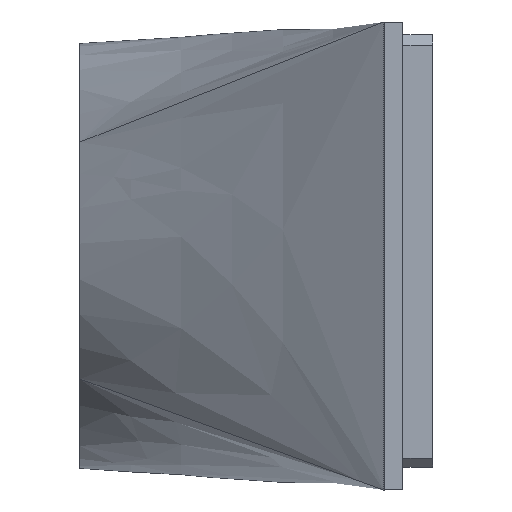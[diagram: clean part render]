
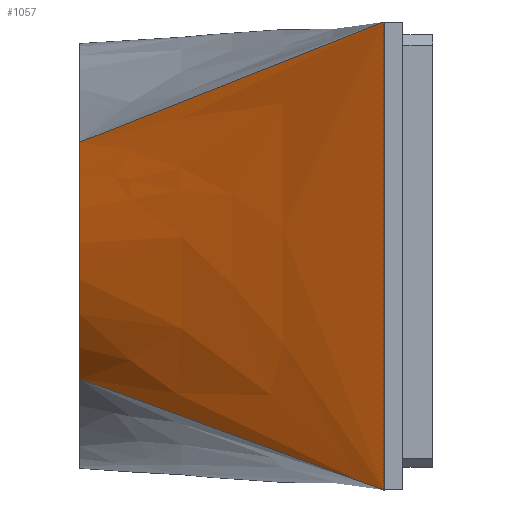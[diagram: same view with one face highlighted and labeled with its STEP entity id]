
A CAD part, front view. The second image highlights one B-rep face of the part: STEP entity #1057.
In plain terms, the highlighted free-form (B-spline) face has degree [3, 3] with [6, 4] control points.
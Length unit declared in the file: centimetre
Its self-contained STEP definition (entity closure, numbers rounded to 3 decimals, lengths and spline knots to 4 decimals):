
#47=CIRCLE($,#1121,3.7);
#59=LINE($,#1532,#151);
#73=LINE($,#1592,#165);
#74=LINE($,#1594,#166);
#75=LINE($,#1597,#167);
#151=VECTOR($,#1177,8.1513);
#165=VECTOR($,#1205,0.5127);
#166=VECTOR($,#1206,6.7571);
#167=VECTOR($,#1209,6.2557);
#287=FACE_OUTER_BOUND($,#347,.T.);
#347=EDGE_LOOP($,(#760,#761,#762,#763,#764));
#474=VERTEX_POINT($,#1530);
#475=VERTEX_POINT($,#1531);
#490=VERTEX_POINT($,#1591);
#491=VERTEX_POINT($,#1593);
#492=VERTEX_POINT($,#1595);
#582=EDGE_CURVE($,#474,#475,#59,.T.);
#600=EDGE_CURVE($,#490,#475,#73,.T.);
#601=EDGE_CURVE($,#491,#474,#74,.T.);
#602=EDGE_CURVE($,#492,#491,#47,.T.);
#603=EDGE_CURVE($,#492,#490,#75,.T.);
#760=ORIENTED_EDGE($,*,*,#600,.T.);
#761=ORIENTED_EDGE($,*,*,#582,.F.);
#762=ORIENTED_EDGE($,*,*,#601,.F.);
#763=ORIENTED_EDGE($,*,*,#602,.F.);
#764=ORIENTED_EDGE($,*,*,#603,.T.);
#1035=B_SPLINE_SURFACE_WITH_KNOTS($,3,3,((#1567,#1568,#1569,#1570),(#1571,
#1572,#1573,#1574),(#1575,#1576,#1577,#1578),(#1579,#1580,#1581,#1582),
(#1583,#1584,#1585,#1586),(#1587,#1588,#1589,#1590)),.UNSPECIFIED.,.F.,
 .F.,.F.,(4,1,1,4),(4,4),(0.,0.2857,0.5714,
1.),(0.,1.),.UNSPECIFIED.);
#1057=ADVANCED_FACE($,(#287),#1035,.F.);
#1121=AXIS2_PLACEMENT_3D($,#1596,#1207,#1208);
#1177=DIRECTION($,(0.,0.,-1.));
#1205=DIRECTION($,(0.782,-0.554,-0.286));
#1206=DIRECTION($,(0.783,-0.539,0.31));
#1207=DIRECTION('center_axis',(-1.,0.,0.));
#1208=DIRECTION('ref_axis',(0.,0.,-1.));
#1209=DIRECTION($,(0.782,-0.554,-0.286));
#1530=CARTESIAN_POINT('',(-21.7851,10.129,9.9013));
#1531=CARTESIAN_POINT('',(-21.7851,10.1285,1.75));
#1532=CARTESIAN_POINT($,(-21.7851,10.1288,5.826));
#1567=CARTESIAN_POINT('Ctrl Pts',(-27.0788,13.8764,3.6841));
#1568=CARTESIAN_POINT('Ctrl Pts',(-25.3142,12.6271,3.0394));
#1569=CARTESIAN_POINT('Ctrl Pts',(-23.5496,11.3778,2.3947));
#1570=CARTESIAN_POINT('Ctrl Pts',(-21.7851,10.1285,1.75));
#1571=CARTESIAN_POINT('Ctrl Pts',(-27.0788,13.6352,4.0239));
#1572=CARTESIAN_POINT('Ctrl Pts',(-25.3142,12.4664,3.5247));
#1573=CARTESIAN_POINT('Ctrl Pts',(-23.5496,11.2974,3.0255));
#1574=CARTESIAN_POINT('Ctrl Pts',(-21.7851,10.1286,2.5263));
#1575=CARTESIAN_POINT('Ctrl Pts',(-27.0788,13.2693,4.7858));
#1576=CARTESIAN_POINT('Ctrl Pts',(-25.3142,12.2226,4.5501));
#1577=CARTESIAN_POINT('Ctrl Pts',(-23.5496,11.1754,4.3146));
#1578=CARTESIAN_POINT('Ctrl Pts',(-21.7851,10.1287,4.0789));
#1579=CARTESIAN_POINT('Ctrl Pts',(-27.0788,13.1053,6.2568));
#1580=CARTESIAN_POINT('Ctrl Pts',(-25.3142,12.1131,6.4365));
#1581=CARTESIAN_POINT('Ctrl Pts',(-23.5496,11.121,6.6163));
#1582=CARTESIAN_POINT('Ctrl Pts',(-21.7851,10.1288,6.796));
#1583=CARTESIAN_POINT('Ctrl Pts',(-27.0788,13.4347,7.2803));
#1584=CARTESIAN_POINT('Ctrl Pts',(-25.3142,12.3331,7.7657));
#1585=CARTESIAN_POINT('Ctrl Pts',(-23.5496,11.2304,8.2515));
#1586=CARTESIAN_POINT('Ctrl Pts',(-21.7851,10.1289,8.7368));
#1587=CARTESIAN_POINT('Ctrl Pts',(-27.0788,13.7697,7.8082));
#1588=CARTESIAN_POINT('Ctrl Pts',(-25.3142,12.5561,8.5059));
#1589=CARTESIAN_POINT('Ctrl Pts',(-23.5496,11.3425,9.2036));
#1590=CARTESIAN_POINT('Ctrl Pts',(-21.7851,10.129,9.9013));
#1591=CARTESIAN_POINT('',(-22.1861,10.4124,1.8965));
#1592=CARTESIAN_POINT($,(-27.0788,13.8764,3.6841));
#1593=CARTESIAN_POINT('',(-27.0788,13.7697,7.8082));
#1594=CARTESIAN_POINT($,(-27.0788,13.7697,7.8082));
#1595=CARTESIAN_POINT('',(-27.0788,13.8764,3.6841));
#1596=CARTESIAN_POINT('Origin',(-27.0788,16.8937,5.8256));
#1597=CARTESIAN_POINT($,(-27.0788,13.8764,3.6841));
